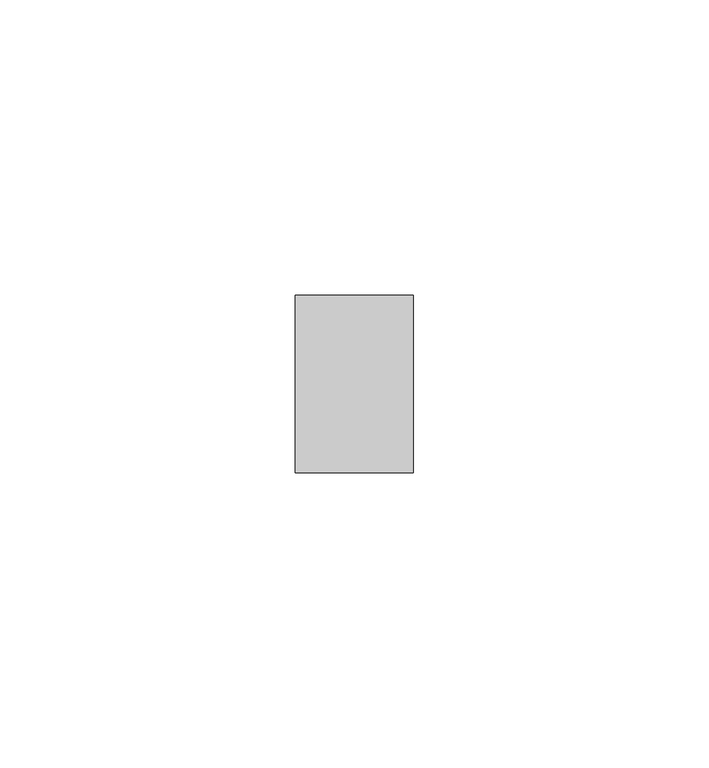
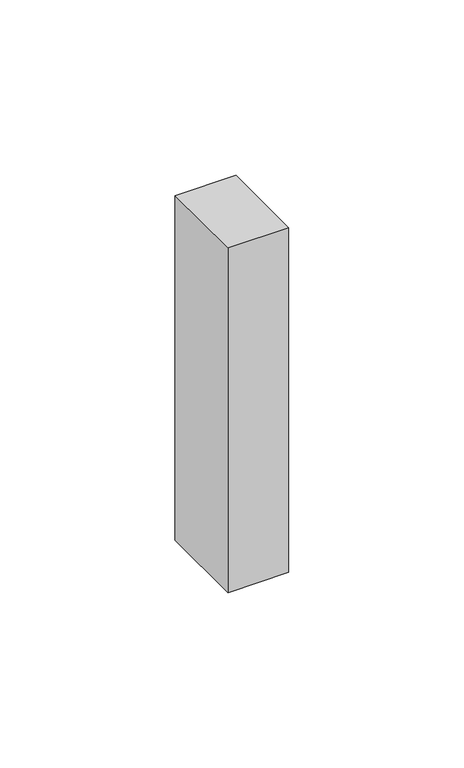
"""IFC4 building model written with IfcOpenShell, lengths in millimetres: member geometry, Прямоугольный импост : Квадрат 10 мм - Зазор между навесными плитами."""

from ifc_helpers import new_model, si_unit, frame, origin, place, context, project, spatial, polyline, outline, extrude, source, transform, mapped, element, save


def member_b50afc94(model_context):
    return source(origin(), model_context, "Body", "SweptSolid", [
        extrude(outline(polyline([(0.0, 15.0), (0.0, -15.0), (-20.0, -15.0), (-20.0, 15.0), (0.0, 15.0)])), frame((0.0, 0.0, -119.9911197), z_axis=(0.0, 0.0, 1.0), x_axis=(1.0, 0.0, 0.0)), (0.0, 0.0, 1.0), 119.9911197),
    ])


if __name__ == "__main__":
    model = new_model("IFC4")
    model_context = context("Model", 3, world=origin())
    ifc_project = project(units=[si_unit("LENGTHUNIT", "METRE", prefix="MILLI")], contexts=[model_context])
    site = spatial("IfcSite", under=ifc_project)
    building = spatial("IfcBuilding", under=site)
    placement = place(None, origin())
    member_shape = member_b50afc94(model_context)
    element("IfcMember", 1, ObjectType="Прямоугольный импост : Квадрат 10 мм - Зазор между навесными плитами", at=placement, inside=building, context=model_context, shape_type="MappedRepresentation", body=[
        mapped(member_shape, transform((0.0, 0.0, 0.0), x_axis=(1.0, 0.0, 0.0), y_axis=(0.0, 1.0, 0.0), z_axis=(0.0, 0.0, 1.0))),
    ])
    save(model, "model.ifc")
